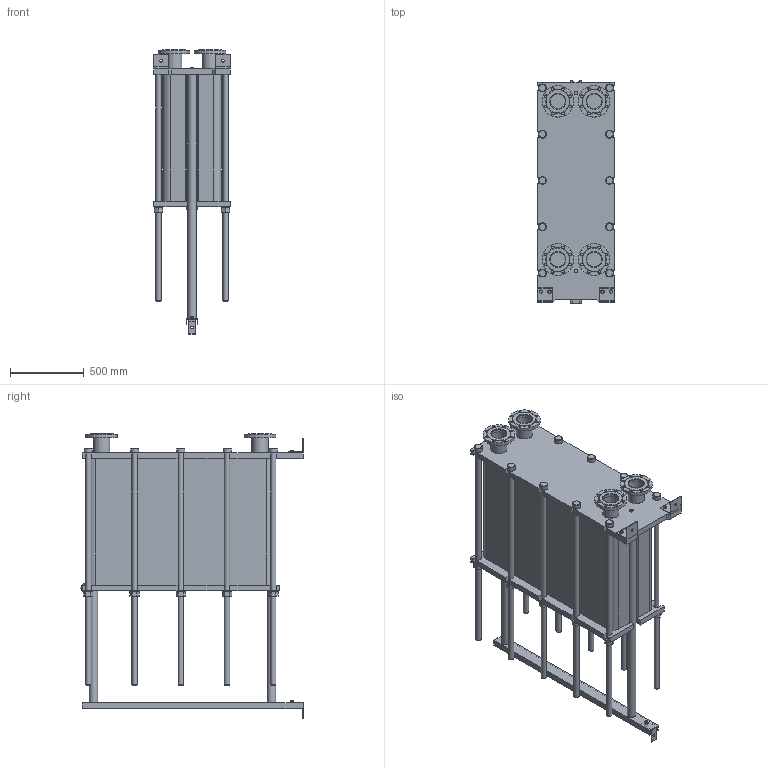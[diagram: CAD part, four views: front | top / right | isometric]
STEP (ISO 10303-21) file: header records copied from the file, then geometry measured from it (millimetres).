
FILE_DESCRIPTION(/* description */ (''),/* implementation_level */ '2;1');
FILE_NAME(/* name */ 'C:\Users\zhuro\Desktop\ENCO\TO\ЭН-04\ЭН-0,5-04-249-1.stp',/* time_stamp */ '2022-06-06T11:06:44+03:00',/* author */ ('zhuro'),/* organization */ (''),/* preprocessor_version */ 'ST-DEVELOPER v18.1',/* originating_system */ 'Autodesk Inventor 2022',/* authorisation */ '');
FILE_SCHEMA (('AUTOMOTIVE_DESIGN { 1 0 10303 214 3 1 1 }'));
Length unit declared in the file: millimetre
Products named in the file (1): ЭН-0,5-04-249-1
Bounding box: 520 x 1510 x 1934.5 mm (x, y, z)
Volume: 508542206.5 mm3; surface area: 11631786 mm2
Topology: 45 solids, 45 shells, 668 faces, 1611 edges, 1048 vertices
Faces by surface type: plane 457, cylinder 166, cone 39, torus 6
Full cylindrical faces by diameter (mm): 8 x4, 10 x2, 16 x8, 18 x35, 36 x25, 40 x2, 42 x1, 45 x4, 54 x10, 57 x2, 60 x10, 68 x2, 100 x4, 110 x8, 215 x4
Entity records: 23607 total; most frequent: CARTESIAN_POINT 7348, DIRECTION 3371, ORIENTED_EDGE 3142, EDGE_CURVE 1571, AXIS2_PLACEMENT_3D 1199, VERTEX_POINT 1044, LINE 973, VECTOR 973
